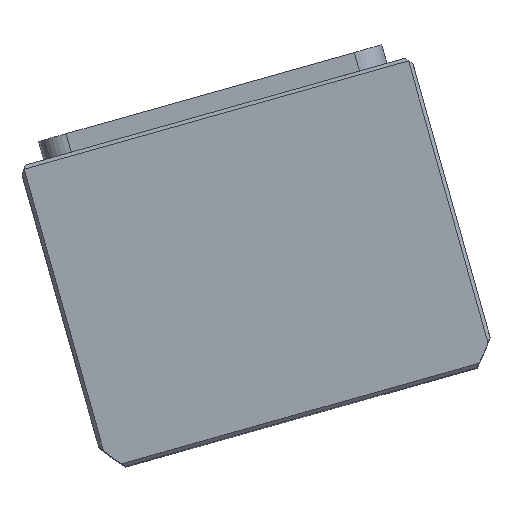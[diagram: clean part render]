
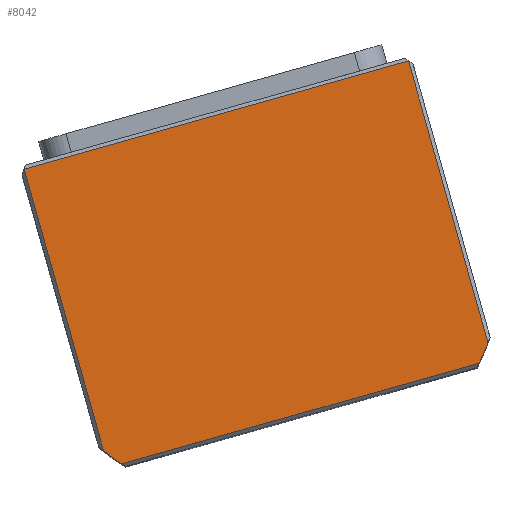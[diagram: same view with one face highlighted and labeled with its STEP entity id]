
A CAD part, top view. The second image highlights one B-rep face of the part: STEP entity #8042.
In plain terms, the highlighted planar face has unit normal (0, 0, 1) as drawn and (0, 0, -1) by its records, which use the part's own axes.
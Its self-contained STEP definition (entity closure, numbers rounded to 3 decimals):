
#359 = CARTESIAN_POINT ( 'NONE',  ( -56., 0., 0. ) ) ;
#1139 = DIRECTION ( 'NONE',  ( 0., -1., 0. ) ) ;
#1193 = DIRECTION ( 'NONE',  ( 1., 0., 0. ) ) ;
#1943 = AXIS2_PLACEMENT_3D ( 'NONE', #6457, #19262, #8307 ) ;
#2043 = CARTESIAN_POINT ( 'NONE',  ( -52.098, 43.5, 0. ) ) ;
#2387 = ORIENTED_EDGE ( 'NONE', *, *, #2693, .T. ) ;
#2693 = EDGE_CURVE ( 'NONE', #22853, #7435, #17890, .T. ) ;
#2969 = ORIENTED_EDGE ( 'NONE', *, *, #13633, .T. ) ;
#3529 = DIRECTION ( 'NONE',  ( -1., 0., 0. ) ) ;
#3682 = VECTOR ( 'NONE', #1193, 1000. ) ;
#4704 = EDGE_CURVE ( 'NONE', #12290, #10025, #13077, .T. ) ;
#4934 = CARTESIAN_POINT ( 'NONE',  ( 0., 43.5, 0. ) ) ;
#4948 = CARTESIAN_POINT ( 'NONE',  ( -56., 38.661, 0. ) ) ;
#4993 = VECTOR ( 'NONE', #20259, 1000. ) ;
#5478 = DIRECTION ( 'NONE',  ( 0., 0., 1. ) ) ;
#6134 = ORIENTED_EDGE ( 'NONE', *, *, #12198, .T. ) ;
#6457 = CARTESIAN_POINT ( 'NONE',  ( 0., -2.5, 0. ) ) ;
#6699 = CARTESIAN_POINT ( 'NONE',  ( 56., 0., 0. ) ) ;
#7125 = VERTEX_POINT ( 'NONE', #10365 ) ;
#7435 = VERTEX_POINT ( 'NONE', #4948 ) ;
#8031 = AXIS2_PLACEMENT_3D ( 'NONE', #16475, #5478, #18283 ) ;
#8042 = ADVANCED_FACE ( 'NONE', ( #17640 ), #19383, .F. ) ;
#8307 = DIRECTION ( 'NONE',  ( 1., 0., 0. ) ) ;
#8428 = CARTESIAN_POINT ( 'NONE',  ( 0., 0., 0. ) ) ;
#10025 = VERTEX_POINT ( 'NONE', #11939 ) ;
#10060 = AXIS2_PLACEMENT_3D ( 'NONE', #8428, #21195, #10296 ) ;
#10296 = DIRECTION ( 'NONE',  ( 1., 0., 0. ) ) ;
#10365 = CARTESIAN_POINT ( 'NONE',  ( 56., -43.5, 0. ) ) ;
#10882 = VERTEX_POINT ( 'NONE', #2043 ) ;
#11939 = CARTESIAN_POINT ( 'NONE',  ( 52.098, 43.5, 0. ) ) ;
#12198 = EDGE_CURVE ( 'NONE', #7125, #22853, #22003, .T. ) ;
#12290 = VERTEX_POINT ( 'NONE', #18271 ) ;
#12688 = CARTESIAN_POINT ( 'NONE',  ( 0., -43.5, 0. ) ) ;
#13077 = CIRCLE ( 'NONE', #1943, 69.5 ) ;
#13451 = LINE ( 'NONE', #4934, #3682 ) ;
#13633 = EDGE_CURVE ( 'NONE', #10882, #10025, #13451, .T. ) ;
#15948 = VECTOR ( 'NONE', #1139, 1000. ) ;
#16475 = CARTESIAN_POINT ( 'NONE',  ( 0., -2.5, 0. ) ) ;
#16510 = LINE ( 'NONE', #6699, #15948 ) ;
#16803 = CIRCLE ( 'NONE', #8031, 69.5 ) ;
#17640 = FACE_OUTER_BOUND ( 'NONE', #21821, .T. ) ;
#17890 = LINE ( 'NONE', #359, #4993 ) ;
#18271 = CARTESIAN_POINT ( 'NONE',  ( 56., 38.661, 0. ) ) ;
#18283 = DIRECTION ( 'NONE',  ( 1., 0., 0. ) ) ;
#19010 = ORIENTED_EDGE ( 'NONE', *, *, #21381, .T. ) ;
#19084 = ORIENTED_EDGE ( 'NONE', *, *, #20638, .F. ) ;
#19262 = DIRECTION ( 'NONE',  ( 0., 0., 1. ) ) ;
#19383 = PLANE ( 'NONE',  #10060 ) ;
#19949 = ORIENTED_EDGE ( 'NONE', *, *, #4704, .F. ) ;
#20259 = DIRECTION ( 'NONE',  ( 0., 1., 0. ) ) ;
#20503 = CARTESIAN_POINT ( 'NONE',  ( -56., -43.5, 0. ) ) ;
#20638 = EDGE_CURVE ( 'NONE', #10882, #7435, #16803, .T. ) ;
#21195 = DIRECTION ( 'NONE',  ( 0., 0., 1. ) ) ;
#21381 = EDGE_CURVE ( 'NONE', #12290, #7125, #16510, .T. ) ;
#21423 = VECTOR ( 'NONE', #3529, 1000. ) ;
#21821 = EDGE_LOOP ( 'NONE', ( #19949, #19010, #6134, #2387, #19084, #2969 ) ) ;
#22003 = LINE ( 'NONE', #12688, #21423 ) ;
#22853 = VERTEX_POINT ( 'NONE', #20503 ) ;
